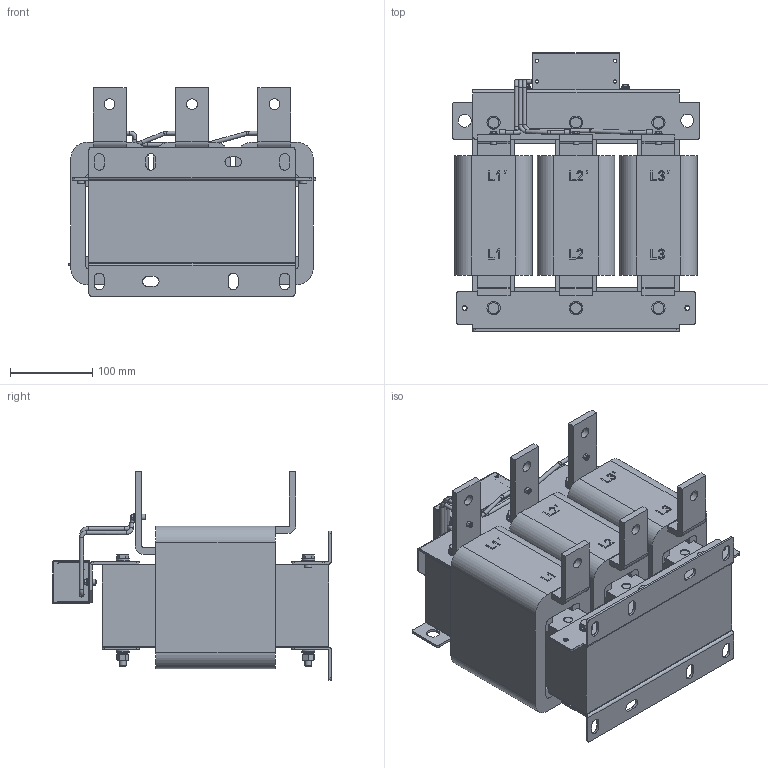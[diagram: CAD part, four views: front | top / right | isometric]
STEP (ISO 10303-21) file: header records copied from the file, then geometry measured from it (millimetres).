
FILE_DESCRIPTION(('STEP AP203'), '1');
FILE_NAME('IDUDT-280_600-4 _ dU_dt ôèëüòð 280 êÂò', '', ('UNSPECIFIED'), ('UNSPECIFIED'), 'C3D Converter', 'C3D Toolkit', '');
FILE_SCHEMA(('CONFIG_CONTROL_DESIGN'));
Length unit declared in the file: millimetre
Products named in the file (19): IDUDT-280/600-4
Assembly tree (75 placements, depth 2):
  IDUDT-280/600-4
    (unnamed)
    (unnamed)
    (unnamed)
    (unnamed)
    (unnamed)
    (unnamed)  x6
    (unnamed)  x24
    (unnamed)  x6
    (unnamed)  x6
    (unnamed)  x6
    (unnamed)  x5
    (unnamed)  x5
    (unnamed)  x3
    (unnamed)  x3
    (unnamed)  x3
    (unnamed)
    (unnamed)
    (unnamed)
Bounding box: 300 x 338 x 253 mm (x, y, z)
Volume: 9804741.7 mm3; surface area: 1309555.8 mm2
Topology: 91 solids, 91 shells, 1317 faces, 3045 edges, 1962 vertices
Faces by surface type: plane 825, cylinder 330, cone 122, bspline 27, torus 13
Full cylindrical faces by diameter (mm): 3 x5, 4 x26, 4.3 x3, 4.407 x3, 4.8 x16, 6 x3, 6.02 x3, 6.917 x6, 7 x5, 8 x6, 8.68 x6, 9 x31, 11 x30, 11.63 x6, 12.88 x6, 13 x6, 16 x26
Entity records: 43801 total; most frequent: CARTESIAN_POINT 17260, DIRECTION 3653, ORIENTED_EDGE 3574, EDGE_CURVE 1787, AXIS2_PLACEMENT_3D 1242, VERTEX_POINT 1222, LINE 1169, VECTOR 1169
